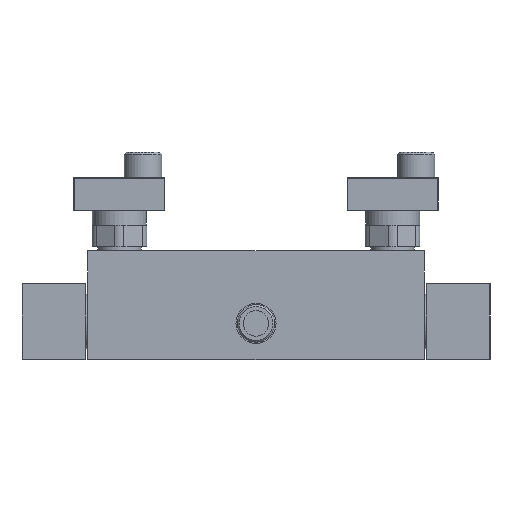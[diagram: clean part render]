
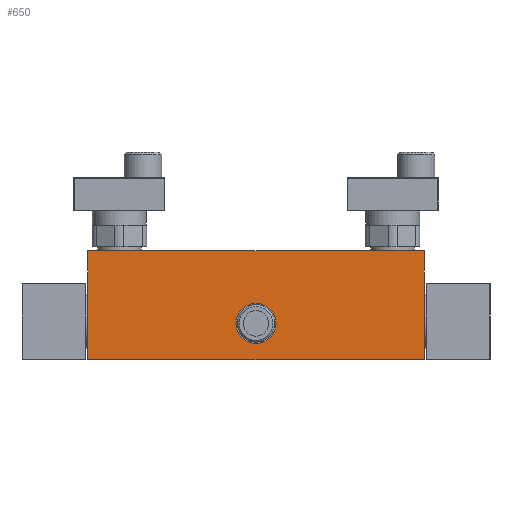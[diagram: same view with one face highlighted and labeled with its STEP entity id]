
A CAD part, front view. The second image highlights one B-rep face of the part: STEP entity #650.
In plain terms, the highlighted planar face has unit normal (0, -1, 0).
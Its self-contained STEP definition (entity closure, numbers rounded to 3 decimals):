
#7 = LINE ( 'NONE', #3288, #5953 ) ;
#160 = CARTESIAN_POINT ( 'NONE',  ( -92.3, -21.5, 60. ) ) ;
#258 = CARTESIAN_POINT ( 'NONE',  ( -11., -21.5, 20. ) ) ;
#394 = LINE ( 'NONE', #5262, #1392 ) ;
#531 = PLANE ( 'NONE',  #1822 ) ;
#537 = DIRECTION ( 'NONE',  ( 0., 0., -1. ) ) ;
#623 = EDGE_LOOP ( 'NONE', ( #3341, #1952, #1240, #4898 ) ) ;
#624 = FACE_BOUND ( 'NONE', #5127, .T. ) ;
#650 = ADVANCED_FACE ( 'NONE', ( #1352, #624 ), #531, .F. ) ;
#652 = AXIS2_PLACEMENT_3D ( 'NONE', #2676, #2194, #1562 ) ;
#978 = EDGE_CURVE ( 'NONE', #1030, #4661, #1646, .T. ) ;
#1030 = VERTEX_POINT ( 'NONE', #2637 ) ;
#1097 = ORIENTED_EDGE ( 'NONE', *, *, #2732, .F. ) ;
#1106 = VERTEX_POINT ( 'NONE', #2733 ) ;
#1240 = ORIENTED_EDGE ( 'NONE', *, *, #5385, .T. ) ;
#1301 = EDGE_CURVE ( 'NONE', #2014, #1030, #2025, .T. ) ;
#1341 = DIRECTION ( 'NONE',  ( -1., 0., 0. ) ) ;
#1352 = FACE_OUTER_BOUND ( 'NONE', #623, .T. ) ;
#1392 = VECTOR ( 'NONE', #1341, 1000. ) ;
#1562 = DIRECTION ( 'NONE',  ( -1., 0., 0. ) ) ;
#1575 = CARTESIAN_POINT ( 'NONE',  ( 92.3, -21.5, 0.2 ) ) ;
#1646 = LINE ( 'NONE', #2249, #3166 ) ;
#1822 = AXIS2_PLACEMENT_3D ( 'NONE', #2564, #2500, #3044 ) ;
#1891 = ORIENTED_EDGE ( 'NONE', *, *, #3876, .F. ) ;
#1936 = DIRECTION ( 'NONE',  ( 0., -1., 0. ) ) ;
#1952 = ORIENTED_EDGE ( 'NONE', *, *, #2124, .T. ) ;
#2014 = VERTEX_POINT ( 'NONE', #4135 ) ;
#2025 = LINE ( 'NONE', #160, #3298 ) ;
#2124 = EDGE_CURVE ( 'NONE', #4661, #3355, #7, .T. ) ;
#2194 = DIRECTION ( 'NONE',  ( 0., -1., 0. ) ) ;
#2249 = CARTESIAN_POINT ( 'NONE',  ( 92.5, -21.5, 0.2 ) ) ;
#2500 = DIRECTION ( 'NONE',  ( 0., 1., 0. ) ) ;
#2564 = CARTESIAN_POINT ( 'NONE',  ( 92.5, -21.5, 60. ) ) ;
#2637 = CARTESIAN_POINT ( 'NONE',  ( -92.3, -21.5, 0.2 ) ) ;
#2676 = CARTESIAN_POINT ( 'NONE',  ( 0., -21.5, 20. ) ) ;
#2732 = EDGE_CURVE ( 'NONE', #5706, #1106, #2830, .T. ) ;
#2733 = CARTESIAN_POINT ( 'NONE',  ( 11., -21.5, 20. ) ) ;
#2830 = CIRCLE ( 'NONE', #5629, 11. ) ;
#3044 = DIRECTION ( 'NONE',  ( -1., 0., 0. ) ) ;
#3166 = VECTOR ( 'NONE', #4054, 1000. ) ;
#3288 = CARTESIAN_POINT ( 'NONE',  ( 92.3, -21.5, 60. ) ) ;
#3298 = VECTOR ( 'NONE', #537, 1000. ) ;
#3310 = DIRECTION ( 'NONE',  ( -1., 0., 0. ) ) ;
#3341 = ORIENTED_EDGE ( 'NONE', *, *, #978, .T. ) ;
#3355 = VERTEX_POINT ( 'NONE', #4403 ) ;
#3876 = EDGE_CURVE ( 'NONE', #1106, #5706, #4883, .T. ) ;
#4054 = DIRECTION ( 'NONE',  ( 1., 0., 0. ) ) ;
#4135 = CARTESIAN_POINT ( 'NONE',  ( -92.3, -21.5, 59.8 ) ) ;
#4403 = CARTESIAN_POINT ( 'NONE',  ( 92.3, -21.5, 59.8 ) ) ;
#4661 = VERTEX_POINT ( 'NONE', #1575 ) ;
#4772 = CARTESIAN_POINT ( 'NONE',  ( 0., -21.5, 20. ) ) ;
#4883 = CIRCLE ( 'NONE', #652, 11. ) ;
#4898 = ORIENTED_EDGE ( 'NONE', *, *, #1301, .T. ) ;
#5127 = EDGE_LOOP ( 'NONE', ( #1097, #1891 ) ) ;
#5262 = CARTESIAN_POINT ( 'NONE',  ( -92.5, -21.5, 59.8 ) ) ;
#5385 = EDGE_CURVE ( 'NONE', #3355, #2014, #394, .T. ) ;
#5629 = AXIS2_PLACEMENT_3D ( 'NONE', #4772, #1936, #3310 ) ;
#5672 = DIRECTION ( 'NONE',  ( 0., 0., 1. ) ) ;
#5706 = VERTEX_POINT ( 'NONE', #258 ) ;
#5953 = VECTOR ( 'NONE', #5672, 1000. ) ;
